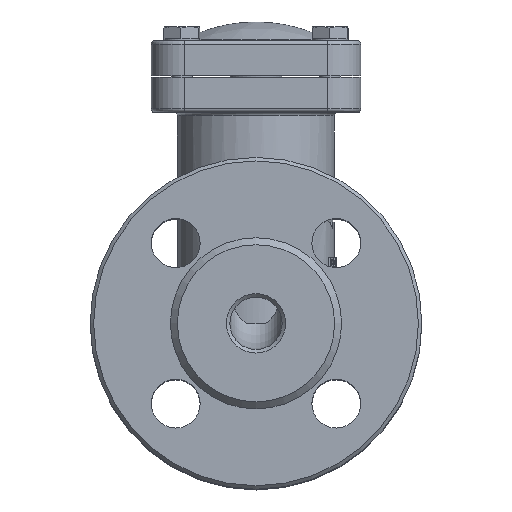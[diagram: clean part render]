
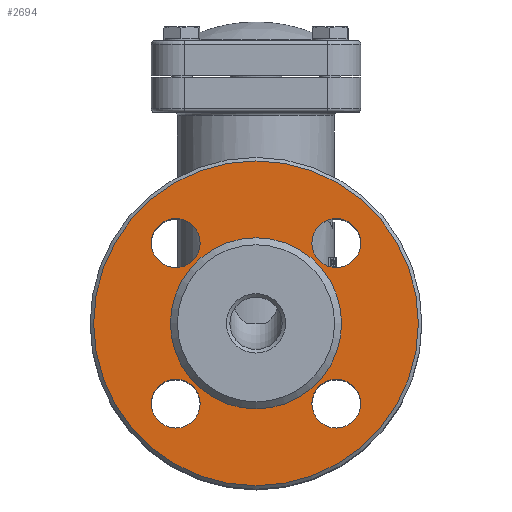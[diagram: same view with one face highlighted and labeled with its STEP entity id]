
A CAD part, top view. The second image highlights one B-rep face of the part: STEP entity #2694.
In plain terms, the highlighted planar face has unit normal (0, 0, 1).
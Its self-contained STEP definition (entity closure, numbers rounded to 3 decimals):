
#2694=ADVANCED_FACE('',(#7892,#7894,#7896,#7898,#7900,#7902),#7904,.T.);
#7892=FACE_BOUND('',#7893,.T.);
#7893=EDGE_LOOP('',(#9799));
#7894=FACE_BOUND('',#7895,.T.);
#7895=EDGE_LOOP('',(#9800));
#7896=FACE_BOUND('',#7897,.T.);
#7897=EDGE_LOOP('',(#9801));
#7898=FACE_BOUND('',#7899,.T.);
#7899=EDGE_LOOP('',(#9802));
#7900=FACE_BOUND('',#7901,.T.);
#7901=EDGE_LOOP('',(#9803));
#7902=FACE_BOUND('',#7903,.T.);
#7903=EDGE_LOOP('',(#9804));
#7904=PLANE('',#7905);
#7905=AXIS2_PLACEMENT_3D('',#7906,#7907,#7908);
#7906=CARTESIAN_POINT('',(0.,0.,63.));
#7907=DIRECTION('',(0.,0.,1.));
#7908=DIRECTION('',(1.,0.,0.));
#9799=ORIENTED_EDGE('',*,*,#10731,.F.);
#9800=ORIENTED_EDGE('',*,*,#10732,.F.);
#9801=ORIENTED_EDGE('',*,*,#10724,.T.);
#9802=ORIENTED_EDGE('',*,*,#10725,.T.);
#9803=ORIENTED_EDGE('',*,*,#10726,.T.);
#9804=ORIENTED_EDGE('',*,*,#10727,.T.);
#10724=EDGE_CURVE('',#12185,#12185,#12186,.T.);
#10725=EDGE_CURVE('',#12187,#12187,#12188,.T.);
#10726=EDGE_CURVE('',#12189,#12189,#12190,.T.);
#10727=EDGE_CURVE('',#12191,#12191,#12192,.T.);
#10731=EDGE_CURVE('',#12199,#12199,#12200,.T.);
#10732=EDGE_CURVE('',#12201,#12201,#12202,.T.);
#12185=VERTEX_POINT('',#22707);
#12186=CIRCLE('',#22708,7.);
#12187=VERTEX_POINT('',#22712);
#12188=CIRCLE('',#22713,7.);
#12189=VERTEX_POINT('',#22717);
#12190=CIRCLE('',#22718,7.);
#12191=VERTEX_POINT('',#22722);
#12192=CIRCLE('',#22723,7.);
#12199=VERTEX_POINT('',#22742);
#12200=CIRCLE('',#22743,46.5);
#12201=VERTEX_POINT('',#22747);
#12202=CIRCLE('',#22748,24.5);
#22707=CARTESIAN_POINT('',(29.981,22.981,63.));
#22708=AXIS2_PLACEMENT_3D('',#22709,#22710,#22711);
#22709=CARTESIAN_POINT('',(22.981,22.981,63.));
#22710=DIRECTION('',(0.,0.,-1.));
#22711=DIRECTION('',(1.,0.,0.));
#22712=CARTESIAN_POINT('',(-15.981,22.981,63.));
#22713=AXIS2_PLACEMENT_3D('',#22714,#22715,#22716);
#22714=CARTESIAN_POINT('',(-22.981,22.981,63.));
#22715=DIRECTION('',(0.,0.,-1.));
#22716=DIRECTION('',(1.,0.,0.));
#22717=CARTESIAN_POINT('',(-15.981,-22.981,63.));
#22718=AXIS2_PLACEMENT_3D('',#22719,#22720,#22721);
#22719=CARTESIAN_POINT('',(-22.981,-22.981,63.));
#22720=DIRECTION('',(0.,0.,-1.));
#22721=DIRECTION('',(1.,0.,0.));
#22722=CARTESIAN_POINT('',(29.981,-22.981,63.));
#22723=AXIS2_PLACEMENT_3D('',#22724,#22725,#22726);
#22724=CARTESIAN_POINT('',(22.981,-22.981,63.));
#22725=DIRECTION('',(0.,0.,-1.));
#22726=DIRECTION('',(1.,0.,0.));
#22742=CARTESIAN_POINT('',(46.5,0.,63.));
#22743=AXIS2_PLACEMENT_3D('',#22744,#22745,#22746);
#22744=CARTESIAN_POINT('',(0.,0.,63.));
#22745=DIRECTION('',(0.,0.,-1.));
#22746=DIRECTION('',(1.,0.,0.));
#22747=CARTESIAN_POINT('',(24.5,0.,63.));
#22748=AXIS2_PLACEMENT_3D('',#22749,#22750,#22751);
#22749=CARTESIAN_POINT('',(0.,0.,63.));
#22750=DIRECTION('',(0.,0.,1.));
#22751=DIRECTION('',(1.,0.,0.));
